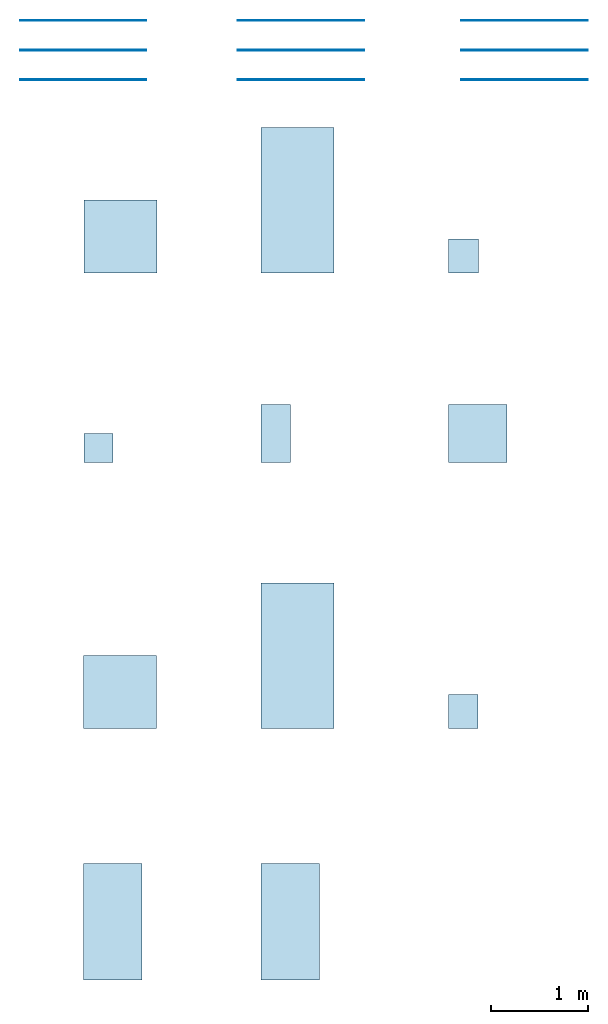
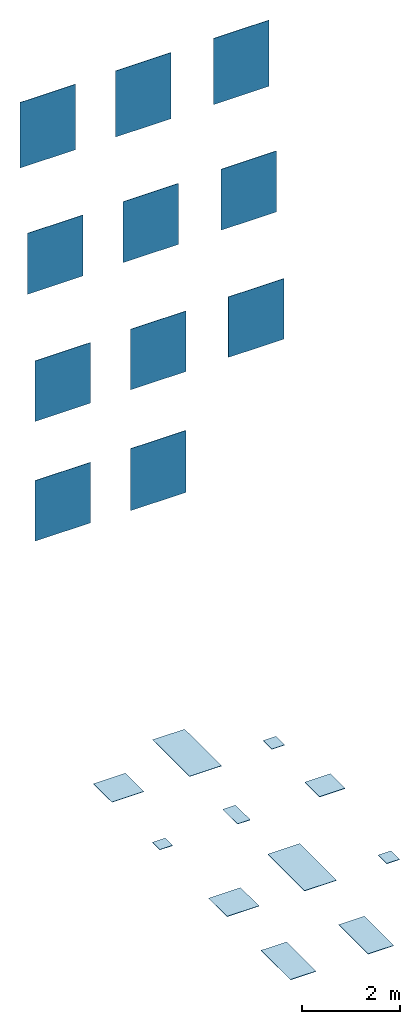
# One storey: 11 slabs, 11 walls.
"""IFC2X3 building model written with IfcOpenShell, lengths in millimetres."""

from ifc_helpers import new_model, entity, si_unit, converted_unit, derived_unit, direction, frame, frame_2d, origin, origin_2d_with_axis, place, context, subcontext, project, spatial, rectangle, extrude, material, layer, layer_set, layer_usage, type_object, element, save


model = new_model("IFC2X3")

# Units and contexts
model_context = context("Model", 3, precision=0.01, world=origin(), true_north=direction((6.123031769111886e-17, 1.0)))
body_context = subcontext(model_context, "Body", "Model", "MODEL_VIEW")
ifc_project = project(units=[si_unit("LENGTHUNIT", "METRE", prefix="MILLI"), si_unit("AREAUNIT", "SQUARE_METRE"), si_unit("VOLUMEUNIT", "CUBIC_METRE"), converted_unit("PLANEANGLEUNIT", "DEGREE", entity("IfcPlaneAngleMeasure", 0.017453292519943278), si_unit("PLANEANGLEUNIT", "RADIAN"), dimensions=[0, 0, 0, 0, 0, 0, 0]), si_unit("MASSUNIT", "GRAM", prefix="KILO"), derived_unit("MASSDENSITYUNIT", [(si_unit("MASSUNIT", "GRAM", prefix="KILO"), 1), (si_unit("LENGTHUNIT", "METRE"), -3)]), derived_unit("IONCONCENTRATIONUNIT", [(si_unit("MASSUNIT", "GRAM", prefix="KILO"), 1), (si_unit("LENGTHUNIT", "METRE"), -3)]), derived_unit("MOMENTOFINERTIAUNIT", [(si_unit("LENGTHUNIT", "METRE"), 4)]), si_unit("TIMEUNIT", "SECOND"), si_unit("FREQUENCYUNIT", "HERTZ"), si_unit("THERMODYNAMICTEMPERATUREUNIT", "DEGREE_CELSIUS"), derived_unit("THERMALTRANSMITTANCEUNIT", [(si_unit("MASSUNIT", "GRAM", prefix="KILO"), 1), (si_unit("THERMODYNAMICTEMPERATUREUNIT", "KELVIN"), -1), (si_unit("TIMEUNIT", "SECOND"), -3)]), derived_unit("THERMALCONDUCTANCEUNIT", [(si_unit("MASSUNIT", "GRAM", prefix="KILO"), 1), (si_unit("THERMODYNAMICTEMPERATUREUNIT", "KELVIN"), -1), (si_unit("TIMEUNIT", "SECOND"), -3), (si_unit("LENGTHUNIT", "METRE"), 1)]), derived_unit("VOLUMETRICFLOWRATEUNIT", [(si_unit("LENGTHUNIT", "METRE", prefix="DECI"), 3), (si_unit("TIMEUNIT", "SECOND"), -1)]), derived_unit("MASSFLOWRATEUNIT", [(si_unit("MASSUNIT", "GRAM", prefix="KILO"), 1), (si_unit("TIMEUNIT", "SECOND"), -1)]), derived_unit("ROTATIONALFREQUENCYUNIT", [(si_unit("TIMEUNIT", "SECOND"), -1)]), si_unit("ELECTRICCURRENTUNIT", "AMPERE"), si_unit("ELECTRICVOLTAGEUNIT", "VOLT"), si_unit("POWERUNIT", "WATT"), si_unit("FORCEUNIT", "NEWTON", prefix="KILO"), si_unit("ILLUMINANCEUNIT", "LUX"), si_unit("LUMINOUSFLUXUNIT", "LUMEN"), si_unit("LUMINOUSINTENSITYUNIT", "CANDELA"), si_unit("ENERGYUNIT", "JOULE"), derived_unit("USERDEFINED", [(si_unit("MASSUNIT", "GRAM", prefix="KILO"), -1), (si_unit("LENGTHUNIT", "METRE"), -2), (si_unit("TIMEUNIT", "SECOND"), 3), (si_unit("LUMINOUSFLUXUNIT", "LUMEN"), 1)]), derived_unit("USERDEFINED", [(si_unit("MASSUNIT", "GRAM", prefix="KILO"), 1), (si_unit("TIMEUNIT", "SECOND"), -3), (si_unit("LENGTHUNIT", "METRE"), 3), (si_unit("ELECTRICCURRENTUNIT", "AMPERE"), -2)]), derived_unit("SOUNDPOWERUNIT", [(si_unit("MASSUNIT", "GRAM", prefix="KILO"), 1), (si_unit("TIMEUNIT", "SECOND"), -3), (si_unit("LENGTHUNIT", "METRE"), 2)]), derived_unit("SOUNDPRESSUREUNIT", [(si_unit("MASSUNIT", "GRAM", prefix="KILO"), 1), (si_unit("LENGTHUNIT", "METRE"), -1), (si_unit("TIMEUNIT", "SECOND"), -2)]), derived_unit("LINEARVELOCITYUNIT", [(si_unit("LENGTHUNIT", "METRE"), 1), (si_unit("TIMEUNIT", "SECOND"), -1)]), si_unit("PRESSUREUNIT", "PASCAL"), derived_unit("USERDEFINED", [(si_unit("MASSUNIT", "GRAM", prefix="KILO"), 1), (si_unit("LENGTHUNIT", "METRE"), -2), (si_unit("TIMEUNIT", "SECOND"), -2)]), derived_unit("LINEARFORCEUNIT", [(si_unit("MASSUNIT", "GRAM", prefix="KILO"), 1), (si_unit("TIMEUNIT", "SECOND"), -2)]), derived_unit("PLANARFORCEUNIT", [(si_unit("MASSUNIT", "GRAM", prefix="KILO"), 1), (si_unit("LENGTHUNIT", "METRE"), -1), (si_unit("TIMEUNIT", "SECOND"), -2)]), derived_unit("SPECIFICHEATCAPACITYUNIT", [(si_unit("THERMODYNAMICTEMPERATUREUNIT", "KELVIN"), -1), (si_unit("LENGTHUNIT", "METRE"), 2), (si_unit("TIMEUNIT", "SECOND"), -2)]), derived_unit("HEATFLUXDENSITYUNIT", [(si_unit("MASSUNIT", "GRAM", prefix="KILO"), 1), (si_unit("TIMEUNIT", "SECOND"), -3)]), derived_unit("HEATINGVALUEUNIT", [(si_unit("LENGTHUNIT", "METRE"), 2), (si_unit("TIMEUNIT", "SECOND"), -2)]), derived_unit("VAPORPERMEABILITYUNIT", [(si_unit("LENGTHUNIT", "METRE"), -1), (si_unit("TIMEUNIT", "SECOND"), 1)]), derived_unit("DYNAMICVISCOSITYUNIT", [(si_unit("MASSUNIT", "GRAM", prefix="KILO"), 1), (si_unit("TIMEUNIT", "SECOND"), -1), (si_unit("LENGTHUNIT", "METRE"), -1)]), derived_unit("THERMALEXPANSIONCOEFFICIENTUNIT", [(si_unit("THERMODYNAMICTEMPERATUREUNIT", "KELVIN"), -1)]), derived_unit("MODULUSOFELASTICITYUNIT", [(si_unit("MASSUNIT", "GRAM", prefix="KILO"), 1), (si_unit("LENGTHUNIT", "METRE"), -1), (si_unit("TIMEUNIT", "SECOND"), -2)]), derived_unit("ISOTHERMALMOISTURECAPACITYUNIT", [(si_unit("MASSUNIT", "GRAM", prefix="KILO"), -1), (si_unit("LENGTHUNIT", "METRE"), 3)]), derived_unit("MOISTUREDIFFUSIVITYUNIT", [(si_unit("TIMEUNIT", "SECOND"), -1), (si_unit("LENGTHUNIT", "METRE"), 2)]), derived_unit("MASSPERLENGTHUNIT", [(si_unit("MASSUNIT", "GRAM", prefix="KILO"), 1), (si_unit("LENGTHUNIT", "METRE"), -1)]), derived_unit("THERMALRESISTANCEUNIT", [(si_unit("MASSUNIT", "GRAM", prefix="KILO"), -1), (si_unit("TIMEUNIT", "SECOND"), 3), (si_unit("THERMODYNAMICTEMPERATUREUNIT", "KELVIN"), 1)]), derived_unit("ACCELERATIONUNIT", [(si_unit("LENGTHUNIT", "METRE"), 1), (si_unit("TIMEUNIT", "SECOND"), -2)]), derived_unit("ANGULARVELOCITYUNIT", [(si_unit("TIMEUNIT", "SECOND"), -1), (si_unit("PLANEANGLEUNIT", "RADIAN"), 1)]), derived_unit("LINEARSTIFFNESSUNIT", [(si_unit("MASSUNIT", "GRAM", prefix="KILO"), 1), (si_unit("TIMEUNIT", "SECOND"), -2)]), derived_unit("WARPINGCONSTANTUNIT", [(si_unit("LENGTHUNIT", "METRE"), 6)]), derived_unit("LINEARMOMENTUNIT", [(si_unit("MASSUNIT", "GRAM", prefix="KILO"), 1), (si_unit("LENGTHUNIT", "METRE"), 1), (si_unit("TIMEUNIT", "SECOND"), -2)]), derived_unit("TORQUEUNIT", [(si_unit("MASSUNIT", "GRAM", prefix="KILO"), 1), (si_unit("LENGTHUNIT", "METRE"), 2), (si_unit("TIMEUNIT", "SECOND"), -2)])], contexts=[model_context])

# Site, building, storey
site_placement = place(None, origin())
site = spatial("IfcSite", under=ifc_project, at=site_placement, Name="Default", CompositionType="ELEMENT")
building_placement = place(site_placement, origin())
building = spatial("IfcBuilding", under=site, at=building_placement, CompositionType="ELEMENT")
storey_placement = place(building_placement, origin())
storey = spatial("IfcBuildingStorey", under=building, at=storey_placement, Name="Level 0", CompositionType="ELEMENT", Elevation=0.0)

# Slabs
ifc_material_1 = material(Name="Prestigio Travertino-Grigio-Lucido-Mosaico-Cube 30.4x35.2 OO32")
ifc_layer_1 = layer(ifc_material_1, 9.0)
ifc_material_2 = material(Name="<Unnamed>")
ifc_layer_2 = layer(ifc_material_2, 1.0)
ifc_layer_set_1 = layer_set([ifc_layer_1, ifc_layer_2], Name="Floor:Floor_Tiles_Refin-Prestigio_Travertino-Grigio-Lucido-Mosaico-Cube 30.4x35.2 OO32")
ifc_layer_usage_1 = layer_usage(ifc_layer_set_1, "AXIS3", "POSITIVE", 0.0)
slab_type_1 = type_object("IfcSlabType", Name="Floor:Floor_Tiles_Refin-Prestigio_Travertino-Grigio-Lucido-Mosaico-Cube 30.4x35.2 OO32", PredefinedType="FLOOR", material=ifc_layer_set_1)
slab_1_placement = place(storey_placement, origin())
element("IfcSlab", 1, at=slab_1_placement, inside=storey, type_object=slab_type_1, material=ifc_layer_usage_1, Name="Floor:Floor_Tiles_Refin-Prestigio_Travertino-Grigio-Lucido-Mosaico-Cube 30.4x35.2 OO32", ObjectType="Floor:Floor_Tiles_Refin-Prestigio_Travertino-Grigio-Lucido-Mosaico-Cube 30.4x35.2 OO32", PredefinedType="FLOOR", context=body_context, shape_type="SweptSolid", body=[
    extrude(rectangle(XDim=352.0000000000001, YDim=304.00000000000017, at=origin_2d_with_axis()), frame((10479.186141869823, 5715.462374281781, 0.0), z_axis=(0.0, 0.0, -1.0), x_axis=(0.0, 1.0, 0.0)), (0.0, 0.0, 1.0), 10.0),
])
ifc_material_3 = material(Name="Prestigio Travertino-Grigio-Lucido-75x75 OO03")
ifc_layer_3 = layer(ifc_material_3, 9.0)
ifc_layer_4 = layer(ifc_material_2, 1.0)
ifc_layer_set_2 = layer_set([ifc_layer_3, ifc_layer_4], Name="Floor:Floor_Tiles_Refin-Prestigio_Travertino-Grigio-Lucido-75x75 OO03")
ifc_layer_usage_2 = layer_usage(ifc_layer_set_2, "AXIS3", "POSITIVE", 0.0)
slab_type_2 = type_object("IfcSlabType", Name="Floor:Floor_Tiles_Refin-Prestigio_Travertino-Grigio-Lucido-75x75 OO03", PredefinedType="FLOOR", material=ifc_layer_set_2)
slab_2_placement = place(storey_placement, origin())
element("IfcSlab", 2, at=slab_2_placement, inside=storey, type_object=slab_type_2, material=ifc_layer_usage_2, Name="Floor:Floor_Tiles_Refin-Prestigio_Travertino-Grigio-Lucido-75x75 OO03", ObjectType="Floor:Floor_Tiles_Refin-Prestigio_Travertino-Grigio-Lucido-75x75 OO03", PredefinedType="FLOOR", context=body_context, shape_type="SweptSolid", body=[
    extrude(rectangle(XDim=749.9999999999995, YDim=750.0000000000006, at=frame_2d((-5.400124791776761e-13, 1.0800249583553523e-12), x_axis=(1.0, 0.0))), frame((6949.375206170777, 5914.462374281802, 0.0), z_axis=(0.0, 0.0, -1.0), x_axis=(0.0, 1.0, 0.0)), (0.0, 0.0, 1.0), 10.0),
])
ifc_material_4 = material(Name="Prestigio Travertino-Grigio-Soft-60x60 OO06")
ifc_layer_5 = layer(ifc_material_4, 9.0)
ifc_layer_6 = layer(ifc_material_2, 1.0)
ifc_layer_set_3 = layer_set([ifc_layer_5, ifc_layer_6], Name="Floor:Floor_Tiles_Refin-Prestigio_Travertino-Grigio-Soft-60x60 OO06")
ifc_layer_usage_3 = layer_usage(ifc_layer_set_3, "AXIS3", "POSITIVE", 0.0)
slab_type_3 = type_object("IfcSlabType", Name="Floor:Floor_Tiles_Refin-Prestigio_Travertino-Grigio-Soft-60x60 OO06", PredefinedType="FLOOR", material=ifc_layer_set_3)
slab_3_placement = place(storey_placement, origin())
element("IfcSlab", 3, at=slab_3_placement, inside=storey, type_object=slab_type_3, material=ifc_layer_usage_3, Name="Floor:Floor_Tiles_Refin-Prestigio_Travertino-Grigio-Soft-60x60 OO06", ObjectType="Floor:Floor_Tiles_Refin-Prestigio_Travertino-Grigio-Soft-60x60 OO06", PredefinedType="FLOOR", context=body_context, shape_type="SweptSolid", body=[
    extrude(rectangle(XDim=600.0, YDim=600.0, at=frame_2d((0.0, 1.0800249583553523e-12), x_axis=(1.0, 0.0))), frame((10627.186141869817, 3889.4623742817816, 0.0), z_axis=(0.0, 0.0, -1.0), x_axis=(0.0, 1.0, 0.0)), (0.0, 0.0, 1.0), 10.0),
])
ifc_material_5 = material(Name="Prestigio Travertino-Grigio-Soft-30x60 OO09")
ifc_layer_7 = layer(ifc_material_5, 9.0)
ifc_layer_8 = layer(ifc_material_2, 1.0)
ifc_layer_set_4 = layer_set([ifc_layer_7, ifc_layer_8], Name="Floor:Floor_Tiles_Refin-Prestigio_Travertino-Grigio-Soft-30x60 OO09")
ifc_layer_usage_4 = layer_usage(ifc_layer_set_4, "AXIS3", "POSITIVE", 0.0)
slab_type_4 = type_object("IfcSlabType", Name="Floor:Floor_Tiles_Refin-Prestigio_Travertino-Grigio-Soft-30x60 OO09", PredefinedType="FLOOR", material=ifc_layer_set_4)
slab_4_placement = place(storey_placement, origin())
element("IfcSlab", 4, at=slab_4_placement, inside=storey, type_object=slab_type_4, material=ifc_layer_usage_4, Name="Floor:Floor_Tiles_Refin-Prestigio_Travertino-Grigio-Soft-30x60 OO09", ObjectType="Floor:Floor_Tiles_Refin-Prestigio_Travertino-Grigio-Soft-30x60 OO09", PredefinedType="FLOOR", context=body_context, shape_type="SweptSolid", body=[
    extrude(rectangle(XDim=600.0, YDim=300.0, at=frame_2d((0.0, 5.400124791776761e-13), x_axis=(1.0, 0.0))), frame((8547.392405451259, 3889.4623742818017, 0.0), z_axis=(0.0, 0.0, -1.0), x_axis=(0.0, 1.0, 0.0)), (0.0, 0.0, 1.0), 10.0),
])
ifc_material_6 = material(Name="Prestigio Travertino-Grigio-Mix-Mosaico-T 30x30 OO38")
ifc_layer_9 = layer(ifc_material_6, 9.0)
ifc_layer_10 = layer(ifc_material_2, 1.0)
ifc_layer_set_5 = layer_set([ifc_layer_9, ifc_layer_10], Name="Floor:Floor_Tiles_Refin-Prestigio_Travertino-Grigio-Lucido-Mosaico-T 30x30 OO38")
ifc_layer_usage_5 = layer_usage(ifc_layer_set_5, "AXIS3", "POSITIVE", 0.0)
slab_type_5 = type_object("IfcSlabType", Name="Floor:Floor_Tiles_Refin-Prestigio_Travertino-Grigio-Lucido-Mosaico-T 30x30 OO38", PredefinedType="FLOOR", material=ifc_layer_set_5)
slab_5_placement = place(storey_placement, origin())
element("IfcSlab", 5, at=slab_5_placement, inside=storey, type_object=slab_type_5, material=ifc_layer_usage_5, Name="Floor:Floor_Tiles_Refin-Prestigio_Travertino-Grigio-Lucido-Mosaico-T 30x30 OO38", ObjectType="Floor:Floor_Tiles_Refin-Prestigio_Travertino-Grigio-Lucido-Mosaico-T 30x30 OO38", PredefinedType="FLOOR", context=body_context, shape_type="SweptSolid", body=[
    extrude(rectangle(XDim=300.0, YDim=300.0, at=frame_2d((0.0, -5.400124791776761e-13), x_axis=(1.0, 0.0))), frame((6724.375206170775, 3739.4623742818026, 0.0), z_axis=(0.0, 0.0, -1.0), x_axis=(0.0, 1.0, 0.0)), (0.0, 0.0, 1.0), 10.0),
])
ifc_material_7 = material(Name="Prestigio Travertino-Grigio-Soft-75x75 OO00")
ifc_layer_11 = layer(ifc_material_7, 9.0)
ifc_layer_12 = layer(ifc_material_2, 1.0)
ifc_layer_set_6 = layer_set([ifc_layer_11, ifc_layer_12], Name="Floor:Floor_Tiles_Refin-Prestigio_Travertino-Grigio-Soft-75x75 OO00")
ifc_layer_usage_6 = layer_usage(ifc_layer_set_6, "AXIS3", "POSITIVE", 0.0)
slab_type_6 = type_object("IfcSlabType", Name="Floor:Floor_Tiles_Refin-Prestigio_Travertino-Grigio-Soft-75x75 OO00", PredefinedType="FLOOR", material=ifc_layer_set_6)
slab_6_placement = place(storey_placement, origin())
element("IfcSlab", 6, at=slab_6_placement, inside=storey, type_object=slab_type_6, material=ifc_layer_usage_6, Name="Floor:Floor_Tiles_Refin-Prestigio_Travertino-Grigio-Soft-75x75 OO00", ObjectType="Floor:Floor_Tiles_Refin-Prestigio_Travertino-Grigio-Soft-75x75 OO00", PredefinedType="FLOOR", context=body_context, shape_type="SweptSolid", body=[
    extrude(rectangle(XDim=750.0, YDim=750.0000000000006, at=frame_2d((0.0, -1.0800249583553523e-12), x_axis=(1.0, 0.0))), frame((6947.600933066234, 1228.43672349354, 0.0), z_axis=(0.0, 0.0, -1.0), x_axis=(0.0, 1.0, 0.0)), (0.0, 0.0, 1.0), 10.0),
])
ifc_material_8 = material(Name="Prestigio Travertino-Grigio-Lucido-75x150 OM88")
ifc_layer_13 = layer(ifc_material_8, 9.0)
ifc_layer_14 = layer(ifc_material_2, 1.0)
ifc_layer_set_7 = layer_set([ifc_layer_13, ifc_layer_14], Name="Floor:Floor_Tiles_Refin-Prestigio_Travertino-Grigio-Soft-75x150 OM88")
ifc_layer_usage_7 = layer_usage(ifc_layer_set_7, "AXIS3", "POSITIVE", 0.0)
slab_type_7 = type_object("IfcSlabType", Name="Floor:Floor_Tiles_Refin-Prestigio_Travertino-Grigio-Soft-75x150 OM88", PredefinedType="FLOOR", material=ifc_layer_set_7)
slab_7_placement = place(storey_placement, origin())
element("IfcSlab", 7, at=slab_7_placement, inside=storey, type_object=slab_type_7, material=ifc_layer_usage_7, Name="Floor:Floor_Tiles_Refin-Prestigio_Travertino-Grigio-Soft-75x150 OM88", ObjectType="Floor:Floor_Tiles_Refin-Prestigio_Travertino-Grigio-Soft-75x150 OM88", PredefinedType="FLOOR", context=body_context, shape_type="SweptSolid", body=[
    extrude(rectangle(XDim=1500.0, YDim=750.0000000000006, at=frame_2d((5.115907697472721e-13, 1.0800249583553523e-12), x_axis=(1.0, 0.0))), frame((8772.39240545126, 6288.419206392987, 0.0), z_axis=(0.0, 0.0, -1.0), x_axis=(0.0, 1.0, 0.0)), (0.0, 0.0, 1.0), 10.0),
])
ifc_material_9 = material(Name="Prestigio Travertino-Grigio-Soft-75x150 OM85")
ifc_layer_15 = layer(ifc_material_9, 9.0)
ifc_layer_16 = layer(ifc_material_2, 1.0)
ifc_layer_set_8 = layer_set([ifc_layer_15, ifc_layer_16], Name="Floor:Floor_Tiles_Refin-Prestigio_Travertino-Grigio-Soft-75x150 OM85")
ifc_layer_usage_8 = layer_usage(ifc_layer_set_8, "AXIS3", "POSITIVE", 0.0)
slab_type_8 = type_object("IfcSlabType", Name="Floor:Floor_Tiles_Refin-Prestigio_Travertino-Grigio-Soft-75x150 OM85", PredefinedType="FLOOR", material=ifc_layer_set_8)
slab_8_placement = place(storey_placement, origin())
element("IfcSlab", 8, at=slab_8_placement, inside=storey, type_object=slab_type_8, material=ifc_layer_usage_8, Name="Floor:Floor_Tiles_Refin-Prestigio_Travertino-Grigio-Soft-75x150 OM85", ObjectType="Floor:Floor_Tiles_Refin-Prestigio_Travertino-Grigio-Soft-75x150 OM85", PredefinedType="FLOOR", context=body_context, shape_type="SweptSolid", body=[
    extrude(rectangle(XDim=1500.0, YDim=750.0000000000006, at=origin_2d_with_axis()), frame((8770.618132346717, 1603.4367234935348, 0.0), z_axis=(0.0, 0.0, -1.0), x_axis=(0.0, 1.0, 0.0)), (0.0, 0.0, 1.0), 10.0),
])
ifc_material_10 = material(Name="Prestigio Travertino-Grigio-Soft-Mosaico-Cube 30.4x35.2 OO35")
ifc_layer_17 = layer(ifc_material_10, 9.0)
ifc_layer_18 = layer(ifc_material_2, 1.0)
ifc_layer_set_9 = layer_set([ifc_layer_17, ifc_layer_18], Name="Floor:Floor_Tiles_Refin-Prestigio_Travertino-Grigio-Soft-Mosaico-Cube 30.4x35.2 OO35")
ifc_layer_usage_9 = layer_usage(ifc_layer_set_9, "AXIS3", "POSITIVE", 0.0)
slab_type_9 = type_object("IfcSlabType", Name="Floor:Floor_Tiles_Refin-Prestigio_Travertino-Grigio-Soft-Mosaico-Cube 30.4x35.2 OO35", PredefinedType="FLOOR", material=ifc_layer_set_9)
slab_9_placement = place(storey_placement, origin())
element("IfcSlab", 9, at=slab_9_placement, inside=storey, type_object=slab_type_9, material=ifc_layer_usage_9, Name="Floor:Floor_Tiles_Refin-Prestigio_Travertino-Grigio-Soft-Mosaico-Cube 30.4x35.2 OO35", ObjectType="Floor:Floor_Tiles_Refin-Prestigio_Travertino-Grigio-Soft-Mosaico-Cube 30.4x35.2 OO35", PredefinedType="FLOOR", context=body_context, shape_type="SweptSolid", body=[
    extrude(rectangle(XDim=352.0000000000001, YDim=304.00000000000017, at=frame_2d((-7.105427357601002e-14, 0.0), x_axis=(1.0, 0.0))), frame((10477.411868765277, 1029.4367234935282, 0.0), z_axis=(0.0, 0.0, -1.0), x_axis=(0.0, 1.0, 0.0)), (0.0, 0.0, 1.0), 10.0),
])
ifc_material_11 = material(Name="Prestigio Travertino-Grigio-Soft-60x120 OZ37")
ifc_layer_19 = layer(ifc_material_11, 9.0)
ifc_layer_20 = layer(ifc_material_2, 1.0)
ifc_layer_set_10 = layer_set([ifc_layer_19, ifc_layer_20], Name="Floor:Floor_Tiles_Refin-Prestigio_Travertino-Grigio-Soft-60x120 OZ37")
ifc_layer_usage_10 = layer_usage(ifc_layer_set_10, "AXIS3", "POSITIVE", 0.0)
slab_type_10 = type_object("IfcSlabType", Name="Floor:Floor_Tiles_Refin-Prestigio_Travertino-Grigio-Soft-60x120 OZ37", PredefinedType="FLOOR", material=ifc_layer_set_10)
slab_10_placement = place(storey_placement, origin())
element("IfcSlab", 10, at=slab_10_placement, inside=storey, type_object=slab_type_10, material=ifc_layer_usage_10, Name="Floor:Floor_Tiles_Refin-Prestigio_Travertino-Grigio-Soft-60x120 OZ37", ObjectType="Floor:Floor_Tiles_Refin-Prestigio_Travertino-Grigio-Soft-60x120 OZ37", PredefinedType="FLOOR", context=body_context, shape_type="SweptSolid", body=[
    extrude(rectangle(XDim=1200.0, YDim=600.0, at=frame_2d((0.0, 1.0800249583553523e-12), x_axis=(1.0, 0.0))), frame((6872.600933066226, -1132.5889272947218, 0.0), z_axis=(0.0, 0.0, -1.0), x_axis=(0.0, 1.0, 0.0)), (0.0, 0.0, 1.0), 10.0),
])
ifc_material_12 = material(Name="Prestigio Travertino-Dorico-Grigio-60x120 RK80")
ifc_layer_21 = layer(ifc_material_12, 9.0)
ifc_layer_22 = layer(ifc_material_2, 1.0)
ifc_layer_set_11 = layer_set([ifc_layer_21, ifc_layer_22], Name="Floor:Floor_Tiles_Refin-Prestigio_Travertino-Dorico-Grigio-60x120 RK80")
ifc_layer_usage_11 = layer_usage(ifc_layer_set_11, "AXIS3", "POSITIVE", 0.0)
slab_type_11 = type_object("IfcSlabType", Name="Floor:Floor_Tiles_Refin-Prestigio_Travertino-Dorico-Grigio-60x120 RK80", PredefinedType="FLOOR", material=ifc_layer_set_11)
slab_11_placement = place(storey_placement, origin())
element("IfcSlab", 11, at=slab_11_placement, inside=storey, type_object=slab_type_11, material=ifc_layer_usage_11, Name="Floor:Floor_Tiles_Refin-Prestigio_Travertino-Dorico-Grigio-60x120 RK80", ObjectType="Floor:Floor_Tiles_Refin-Prestigio_Travertino-Dorico-Grigio-60x120 RK80", PredefinedType="FLOOR", context=body_context, shape_type="SweptSolid", body=[
    extrude(rectangle(XDim=1200.0, YDim=600.0, at=origin_2d_with_axis()), frame((8695.618132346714, -1132.5889272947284, 0.0), z_axis=(0.0, 0.0, -1.0), x_axis=(0.0, 1.0, 0.0)), (0.0, 0.0, 1.0), 10.0),
])

# Walls
ifc_layer_23 = layer(ifc_material_2, 1.0)
ifc_layer_24 = layer(ifc_material_8, 9.0)
ifc_layer_set_12 = layer_set([ifc_layer_23, ifc_layer_24], Name="Basic Wall:Floor_Tiles_Refin-Prestigio_Travertino-Grigio-Lucido-75x150 OM88")
ifc_layer_usage_12 = layer_usage(ifc_layer_set_12, "AXIS2", "NEGATIVE", 5.000000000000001)
wall_type_1 = type_object("IfcWallType", Name="Basic Wall:Floor_Tiles_Refin-Prestigio_Travertino-Grigio-Lucido-75x150 OM88", PredefinedType="STANDARD", material=ifc_layer_set_12)
wall_1_placement = place(storey_placement, frame((8157.37520617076, 8137.383863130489, 14387.677044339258)))
element("IfcWallStandardCase", 12, at=wall_1_placement, inside=storey, type_object=wall_type_1, material=ifc_layer_usage_12, Name="Basic Wall:Floor_Tiles_Refin-Prestigio_Travertino-Grigio-Lucido-75x150 OM88", ObjectType="Basic Wall:Floor_Tiles_Refin-Prestigio_Travertino-Grigio-Lucido-75x150 OM88", context=body_context, shape_type="SweptSolid", body=[
    extrude(rectangle(XDim=1300.0, YDim=9.999999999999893, at=frame_2d((650.0, 7.638334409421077e-14), x_axis=(-1.0, 0.0))), origin(), (0.0, 0.0, 1.0), 1641.7417352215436),
])
ifc_layer_25 = layer(ifc_material_2, 1.0)
ifc_layer_26 = layer(ifc_material_1, 9.0)
ifc_layer_set_13 = layer_set([ifc_layer_25, ifc_layer_26], Name="Basic Wall:Floor_Tiles_Refin-Prestigio_Travertino-Grigio-Lucido-Mosaico-Cube 30.4x35.2 OO32")
ifc_layer_usage_13 = layer_usage(ifc_layer_set_13, "AXIS2", "NEGATIVE", 5.000000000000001)
wall_type_2 = type_object("IfcWallType", Name="Basic Wall:Floor_Tiles_Refin-Prestigio_Travertino-Grigio-Lucido-Mosaico-Cube 30.4x35.2 OO32", PredefinedType="STANDARD", material=ifc_layer_set_13)
wall_2_placement = place(storey_placement, frame((10457.375206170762, 8137.383863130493, 14387.677044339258)))
element("IfcWallStandardCase", 13, at=wall_2_placement, inside=storey, type_object=wall_type_2, material=ifc_layer_usage_13, Name="Basic Wall:Floor_Tiles_Refin-Prestigio_Travertino-Grigio-Lucido-Mosaico-Cube 30.4x35.2 OO32", ObjectType="Basic Wall:Floor_Tiles_Refin-Prestigio_Travertino-Grigio-Lucido-Mosaico-Cube 30.4x35.2 OO32", context=body_context, shape_type="SweptSolid", body=[
    extrude(rectangle(XDim=1299.999999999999, YDim=9.999999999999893, at=frame_2d((649.9999999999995, 7.638334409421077e-14), x_axis=(-1.0, 0.0))), origin(), (0.0, 0.0, 1.0), 1641.7417352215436),
])
ifc_layer_27 = layer(ifc_material_2, 1.0)
ifc_layer_28 = layer(ifc_material_3, 9.0)
ifc_layer_set_14 = layer_set([ifc_layer_27, ifc_layer_28], Name="Basic Wall:Floor_Tiles_Refin-Prestigio_Travertino-Grigio-Lucido-75x75 OO03")
ifc_layer_usage_14 = layer_usage(ifc_layer_set_14, "AXIS2", "NEGATIVE", 5.000000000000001)
wall_type_3 = type_object("IfcWallType", Name="Basic Wall:Floor_Tiles_Refin-Prestigio_Travertino-Grigio-Lucido-75x75 OO03", PredefinedType="STANDARD", material=ifc_layer_set_14)
wall_3_placement = place(storey_placement, frame((5917.375206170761, 8137.383863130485, 14403.726734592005)))
element("IfcWallStandardCase", 14, at=wall_3_placement, inside=storey, type_object=wall_type_3, material=ifc_layer_usage_14, Name="Basic Wall:Floor_Tiles_Refin-Prestigio_Travertino-Grigio-Lucido-75x75 OO03", ObjectType="Basic Wall:Floor_Tiles_Refin-Prestigio_Travertino-Grigio-Lucido-75x75 OO03", context=body_context, shape_type="SweptSolid", body=[
    extrude(rectangle(XDim=1300.0, YDim=9.999999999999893, at=frame_2d((650.0, 7.638334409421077e-14), x_axis=(-1.0, 0.0))), origin(), (0.0, 0.0, 1.0), 1625.692044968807),
])
ifc_layer_29 = layer(ifc_material_2, 1.0)
ifc_layer_30 = layer(ifc_material_6, 9.0)
ifc_layer_set_15 = layer_set([ifc_layer_29, ifc_layer_30], Name="Basic Wall:Floor_Tiles_Refin-Prestigio_Travertino-Grigio-Lucido-Mosaico-T 30x30 OO38")
ifc_layer_usage_15 = layer_usage(ifc_layer_set_15, "AXIS2", "NEGATIVE", 5.000000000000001)
wall_type_4 = type_object("IfcWallType", Name="Basic Wall:Floor_Tiles_Refin-Prestigio_Travertino-Grigio-Lucido-Mosaico-T 30x30 OO38", PredefinedType="STANDARD", material=ifc_layer_set_15)
wall_4_placement = place(storey_placement, frame((5917.375206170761, 7832.3838631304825, 11452.543626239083)))
element("IfcWallStandardCase", 15, at=wall_4_placement, inside=storey, type_object=wall_type_4, material=ifc_layer_usage_15, Name="Basic Wall:Floor_Tiles_Refin-Prestigio_Travertino-Grigio-Lucido-Mosaico-T 30x30 OO38", ObjectType="Basic Wall:Floor_Tiles_Refin-Prestigio_Travertino-Grigio-Lucido-Mosaico-T 30x30 OO38", context=body_context, shape_type="SweptSolid", body=[
    extrude(rectangle(XDim=1300.0, YDim=9.999999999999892, at=frame_2d((650.0, 0.0), x_axis=(-1.0, 0.0))), origin(), (0.0, 0.0, 1.0), 1513.1985565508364),
])
ifc_layer_31 = layer(ifc_material_2, 1.0)
ifc_layer_32 = layer(ifc_material_5, 9.0)
ifc_layer_set_16 = layer_set([ifc_layer_31, ifc_layer_32], Name="Basic Wall:Floor_Tiles_Refin-Prestigio_Travertino-Grigio-Soft-30x60 OO09")
ifc_layer_usage_16 = layer_usage(ifc_layer_set_16, "AXIS2", "NEGATIVE", 5.000000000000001)
wall_type_5 = type_object("IfcWallType", Name="Basic Wall:Floor_Tiles_Refin-Prestigio_Travertino-Grigio-Soft-30x60 OO09", PredefinedType="STANDARD", material=ifc_layer_set_16)
wall_5_placement = place(storey_placement, frame((8157.375206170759, 7832.383863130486, 11452.543626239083)))
element("IfcWallStandardCase", 16, at=wall_5_placement, inside=storey, type_object=wall_type_5, material=ifc_layer_usage_16, Name="Basic Wall:Floor_Tiles_Refin-Prestigio_Travertino-Grigio-Soft-30x60 OO09", ObjectType="Basic Wall:Floor_Tiles_Refin-Prestigio_Travertino-Grigio-Soft-30x60 OO09", context=body_context, shape_type="SweptSolid", body=[
    extrude(rectangle(XDim=1300.0, YDim=9.999999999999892, at=frame_2d((650.0, 0.0), x_axis=(-1.0, 0.0))), origin(), (0.0, 0.0, 1.0), 1513.1985565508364),
])
ifc_layer_33 = layer(ifc_material_2, 1.0)
ifc_layer_34 = layer(ifc_material_4, 9.0)
ifc_layer_set_17 = layer_set([ifc_layer_33, ifc_layer_34], Name="Basic Wall:Floor_Tiles_Refin-Prestigio_Travertino-Grigio-Soft-60x60 OO06")
ifc_layer_usage_17 = layer_usage(ifc_layer_set_17, "AXIS2", "NEGATIVE", 5.000000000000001)
wall_type_6 = type_object("IfcWallType", Name="Basic Wall:Floor_Tiles_Refin-Prestigio_Travertino-Grigio-Soft-60x60 OO06", PredefinedType="STANDARD", material=ifc_layer_set_17)
wall_6_placement = place(storey_placement, frame((10457.37520617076, 7832.383863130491, 11452.543626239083)))
element("IfcWallStandardCase", 17, at=wall_6_placement, inside=storey, type_object=wall_type_6, material=ifc_layer_usage_17, Name="Basic Wall:Floor_Tiles_Refin-Prestigio_Travertino-Grigio-Soft-60x60 OO06", ObjectType="Basic Wall:Floor_Tiles_Refin-Prestigio_Travertino-Grigio-Soft-60x60 OO06", context=body_context, shape_type="SweptSolid", body=[
    extrude(rectangle(XDim=1300.0000000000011, YDim=9.999999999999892, at=frame_2d((650.0000000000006, 0.0), x_axis=(-1.0, 0.0))), origin(), (0.0, 0.0, 1.0), 1513.1985565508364),
])
ifc_layer_35 = layer(ifc_material_2, 1.0)
ifc_layer_36 = layer(ifc_material_7, 9.0)
ifc_layer_set_18 = layer_set([ifc_layer_35, ifc_layer_36], Name="Basic Wall:Floor_Tiles_Refin-Prestigio_Travertino-Grigio-Soft-75x75 OO00")
ifc_layer_usage_18 = layer_usage(ifc_layer_set_18, "AXIS2", "NEGATIVE", 5.000000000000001)
wall_type_7 = type_object("IfcWallType", Name="Basic Wall:Floor_Tiles_Refin-Prestigio_Travertino-Grigio-Soft-75x75 OO00", PredefinedType="STANDARD", material=ifc_layer_set_18)
wall_7_placement = place(storey_placement, frame((5917.375206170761, 7527.3838631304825, 8479.102721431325)))
element("IfcWallStandardCase", 18, at=wall_7_placement, inside=storey, type_object=wall_type_7, material=ifc_layer_usage_18, Name="Basic Wall:Floor_Tiles_Refin-Prestigio_Travertino-Grigio-Soft-75x75 OO00", ObjectType="Basic Wall:Floor_Tiles_Refin-Prestigio_Travertino-Grigio-Soft-75x75 OO00", context=body_context, shape_type="SweptSolid", body=[
    extrude(rectangle(XDim=1300.0, YDim=9.999999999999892, at=frame_2d((650.0, 0.0), x_axis=(-1.0, 0.0))), origin(), (0.0, 0.0, 1.0), 1502.5740159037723),
])
ifc_layer_37 = layer(ifc_material_2, 1.0)
ifc_layer_38 = layer(ifc_material_9, 9.0)
ifc_layer_set_19 = layer_set([ifc_layer_37, ifc_layer_38], Name="Basic Wall:Floor_Tiles_Refin-Prestigio_Travertino-Grigio-Soft-75x150 OM85")
ifc_layer_usage_19 = layer_usage(ifc_layer_set_19, "AXIS2", "NEGATIVE", 5.000000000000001)
wall_type_8 = type_object("IfcWallType", Name="Basic Wall:Floor_Tiles_Refin-Prestigio_Travertino-Grigio-Soft-75x150 OM85", PredefinedType="STANDARD", material=ifc_layer_set_19)
wall_8_placement = place(storey_placement, frame((8157.375206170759, 7527.383863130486, 8479.102721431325)))
element("IfcWallStandardCase", 19, at=wall_8_placement, inside=storey, type_object=wall_type_8, material=ifc_layer_usage_19, Name="Basic Wall:Floor_Tiles_Refin-Prestigio_Travertino-Grigio-Soft-75x150 OM85", ObjectType="Basic Wall:Floor_Tiles_Refin-Prestigio_Travertino-Grigio-Soft-75x150 OM85", context=body_context, shape_type="SweptSolid", body=[
    extrude(rectangle(XDim=1300.0, YDim=9.999999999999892, at=frame_2d((650.0, 0.0), x_axis=(-1.0, 0.0))), origin(), (0.0, 0.0, 1.0), 1502.5740159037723),
])
ifc_layer_39 = layer(ifc_material_2, 1.0)
ifc_layer_40 = layer(ifc_material_10, 9.0)
ifc_layer_set_20 = layer_set([ifc_layer_39, ifc_layer_40], Name="Basic Wall:Floor_Tiles_Refin-Prestigio_Travertino-Grigio-Soft-Mosaico-Cube 30.4x35.2 OO35")
ifc_layer_usage_20 = layer_usage(ifc_layer_set_20, "AXIS2", "NEGATIVE", 5.000000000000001)
wall_type_9 = type_object("IfcWallType", Name="Basic Wall:Floor_Tiles_Refin-Prestigio_Travertino-Grigio-Soft-Mosaico-Cube 30.4x35.2 OO35", PredefinedType="STANDARD", material=ifc_layer_set_20)
wall_9_placement = place(storey_placement, frame((10457.37520617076, 7527.383863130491, 8479.102721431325)))
element("IfcWallStandardCase", 20, at=wall_9_placement, inside=storey, type_object=wall_type_9, material=ifc_layer_usage_20, Name="Basic Wall:Floor_Tiles_Refin-Prestigio_Travertino-Grigio-Soft-Mosaico-Cube 30.4x35.2 OO35", ObjectType="Basic Wall:Floor_Tiles_Refin-Prestigio_Travertino-Grigio-Soft-Mosaico-Cube 30.4x35.2 OO35", context=body_context, shape_type="SweptSolid", body=[
    extrude(rectangle(XDim=1300.0000000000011, YDim=9.999999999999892, at=frame_2d((650.0000000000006, 0.0), x_axis=(-1.0, 0.0))), origin(), (0.0, 0.0, 1.0), 1502.5740159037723),
])
ifc_layer_41 = layer(ifc_material_2, 1.0)
ifc_layer_42 = layer(ifc_material_11, 9.0)
ifc_layer_set_21 = layer_set([ifc_layer_41, ifc_layer_42], Name="Basic Wall:Floor_Tiles_Refin-Prestigio_Travertino-Grigio-Soft-60x120 OZ37")
ifc_layer_usage_21 = layer_usage(ifc_layer_set_21, "AXIS2", "POSITIVE", -5.000000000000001)
wall_type_10 = type_object("IfcWallType", Name="Basic Wall:Floor_Tiles_Refin-Prestigio_Travertino-Grigio-Soft-60x120 OZ37", PredefinedType="STANDARD", material=ifc_layer_set_21)
wall_10_placement = place(storey_placement, frame((7217.375206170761, 7527.383863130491, 5505.661816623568), z_axis=(0.0, 0.0, 1.0), x_axis=(-1.0, 0.0, 0.0)))
element("IfcWallStandardCase", 21, at=wall_10_placement, inside=storey, type_object=wall_type_10, material=ifc_layer_usage_21, Name="Basic Wall:Floor_Tiles_Refin-Prestigio_Travertino-Grigio-Soft-60x120 OZ37", ObjectType="Basic Wall:Floor_Tiles_Refin-Prestigio_Travertino-Grigio-Soft-60x120 OZ37", context=body_context, shape_type="SweptSolid", body=[
    extrude(rectangle(XDim=1300.0, YDim=9.999999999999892, at=frame_2d((650.0, 0.0), x_axis=(-1.0, 0.0))), origin(), (0.0, 0.0, 1.0), 1502.5740159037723),
])
ifc_layer_43 = layer(ifc_material_2, 1.0)
ifc_layer_44 = layer(ifc_material_12, 9.0)
ifc_layer_set_22 = layer_set([ifc_layer_43, ifc_layer_44], Name="Basic Wall:Floor_Tiles_Refin-Prestigio_Travertino-Dorico-Grigio-60x120 RK80")
ifc_layer_usage_22 = layer_usage(ifc_layer_set_22, "AXIS2", "POSITIVE", -5.000000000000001)
wall_type_11 = type_object("IfcWallType", Name="Basic Wall:Floor_Tiles_Refin-Prestigio_Travertino-Dorico-Grigio-60x120 RK80", PredefinedType="STANDARD", material=ifc_layer_set_22)
wall_11_placement = place(storey_placement, frame((9457.37520617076, 7527.3838631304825, 5477.394133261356), z_axis=(0.0, 0.0, 1.0), x_axis=(-1.0, 0.0, 0.0)))
element("IfcWallStandardCase", 22, at=wall_11_placement, inside=storey, type_object=wall_type_11, material=ifc_layer_usage_22, Name="Basic Wall:Floor_Tiles_Refin-Prestigio_Travertino-Dorico-Grigio-60x120 RK80", ObjectType="Basic Wall:Floor_Tiles_Refin-Prestigio_Travertino-Dorico-Grigio-60x120 RK80", context=body_context, shape_type="SweptSolid", body=[
    extrude(rectangle(XDim=1300.0, YDim=9.999999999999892, at=frame_2d((650.0, 0.0), x_axis=(-1.0, 0.0))), origin(), (0.0, 0.0, 1.0), 1539.1420278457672),
])

save(model, "model.ifc")
